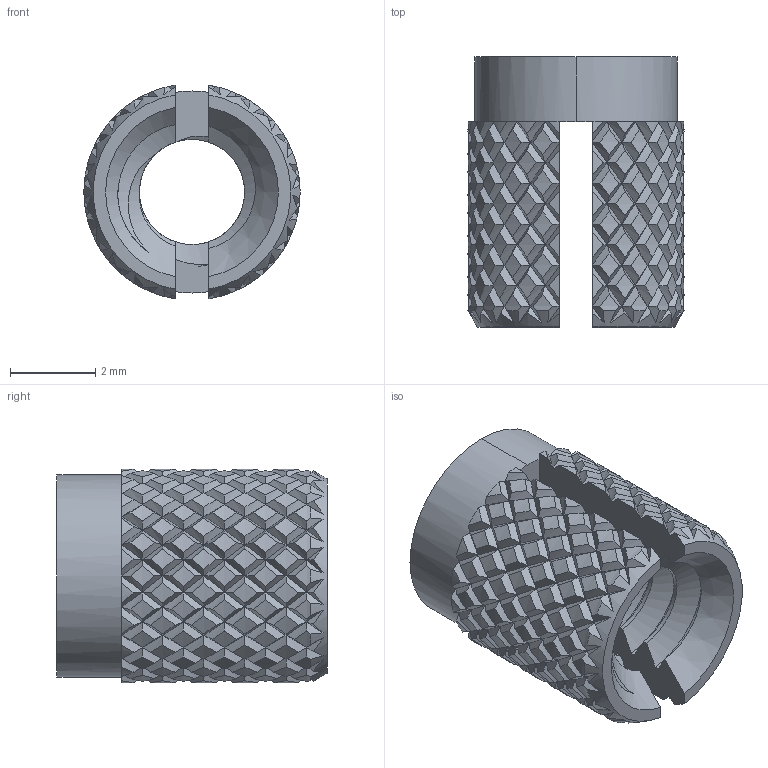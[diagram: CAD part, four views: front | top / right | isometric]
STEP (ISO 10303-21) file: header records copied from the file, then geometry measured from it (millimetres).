
FILE_DESCRIPTION (( 'STEP AP203' ), '1' );
FILE_NAME ('90742A117_Aluminum Screw-to-Expand Insert for Plastic.STEP', '2021-11-16T20:37:30', ( 'Administrator' ), ( 'Managed by Terraform' ), 'SwSTEP 2.0', 'SolidWorks 2017', '' );
FILE_SCHEMA (( 'CONFIG_CONTROL_DESIGN' ));
Length unit declared in the file: inch
Products named in the file (1): 90742A117_Aluminum Screw-to-Expand Insert for Plastic
Bounding box: 5.08 x 6.35 x 5.02 mm (x, y, z)
Volume: 64.3 mm3; surface area: 240.1 mm2
Topology: 1 solids, 1 shells, 1035 faces, 2265 edges, 1231 vertices
Faces by surface type: bspline 791, cylinder 208, plane 29, cone 7
Entity records: 61887 total; most frequent: CARTESIAN_POINT 48417, ORIENTED_EDGE 4530, EDGE_CURVE 2265, VERTEX_POINT 1231, EDGE_LOOP 1036, FACE_OUTER_BOUND 1035, ADVANCED_FACE 1035, B_SPLINE_CURVE_WITH_KNOTS 794
